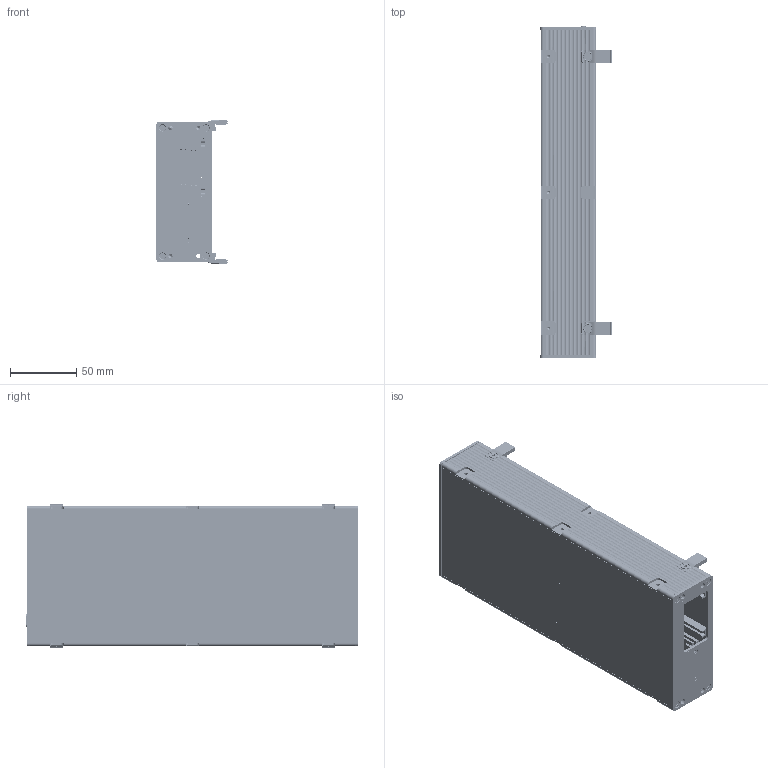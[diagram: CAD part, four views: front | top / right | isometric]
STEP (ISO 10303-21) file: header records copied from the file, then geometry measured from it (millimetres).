
FILE_DESCRIPTION(/* description */ (''),/* implementation_level */ '2;1');
FILE_NAME(/* name */ 'C:\Users\visnsg\Documents\Projekte\VP6140\customer Model\VP6140.stp',/* time_stamp */ '2022-01-10T08:32:14+01:00',/* author */ ('visnsg'),/* organization */ (''),/* preprocessor_version */ 'ST-DEVELOPER v17.2',/* originating_system */ 'Autodesk Inventor 2019',/* authorisation */ '');
FILE_SCHEMA (('AUTOMOTIVE_DESIGN { 1 0 10303 214 3 1 1 }'));
Products named in the file (1): VP6140
Bounding box: 53.8 x 251.13 x 108.83 mm (x, y, z)
Volume: 365404.5 mm3; surface area: 614282.3 mm2
Topology: 212 solids, 233 shells, 10043 faces, 28075 edges, 18787 vertices
Faces by surface type: plane 5421, cylinder 3124, bspline 955, cone 405, torus 117, sphere 21
Full cylindrical faces by diameter (mm): 0.457 x80, 0.6 x82, 0.8 x2, 0.9 x1, 1 x1, 1.1 x16, 1.12 x2, 1.2 x3, 1.27 x4, 1.3 x2, 1.45 x4, 1.567 x4, 1.6 x2, 1.8 x3, 2 x5, 2.013 x32, 2.3 x6, 2.45 x12, 2.459 x48, 2.5 x18, 2.8 x12, 2.9 x22, 3 x16, 3.05 x32, 3.2 x15, 3.242 x8, 3.35 x4, 3.4 x6, 3.45 x2, 3.5 x9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
Entity records: 353468 total; most frequent: CARTESIAN_POINT 83033, ORIENTED_EDGE 55997, DIRECTION 51923, EDGE_CURVE 28002, VERTEX_POINT 18782, LINE 17711, VECTOR 17711, AXIS2_PLACEMENT_3D 17106
